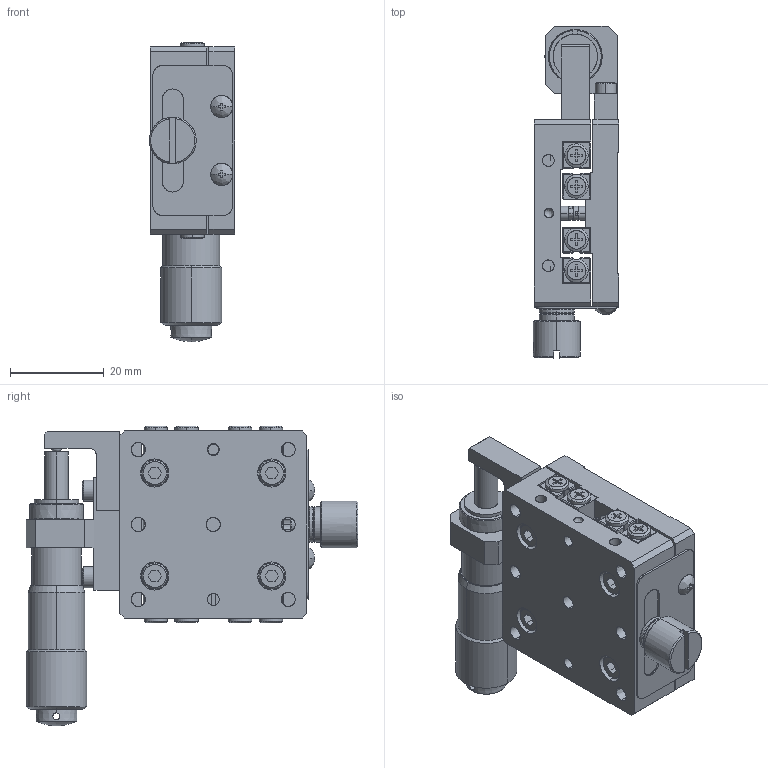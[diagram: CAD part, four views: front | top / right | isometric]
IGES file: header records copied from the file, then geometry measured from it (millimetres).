
Start section: SolidWorks IGES file using analytic representation for surfaces
Global section: file name: E:\0莉こ芞祧(2019)\07PHL\40\IGS\PHL-441S.IGS; native system: SolidWorks 2015; preprocessor: SolidWorks 2015; author: Administrator; date: 190128.104833; units: millimetre
Bounding box: 18.2 x 70.9 x 64 mm (x, y, z)
Surface area: 25491.9 mm2 (no closed solid volume)
Topology: 0 solids, 0 shells, 1022 faces, 15594 edges, 15576 vertices
Faces by surface type: bspline 564, revolution 458
